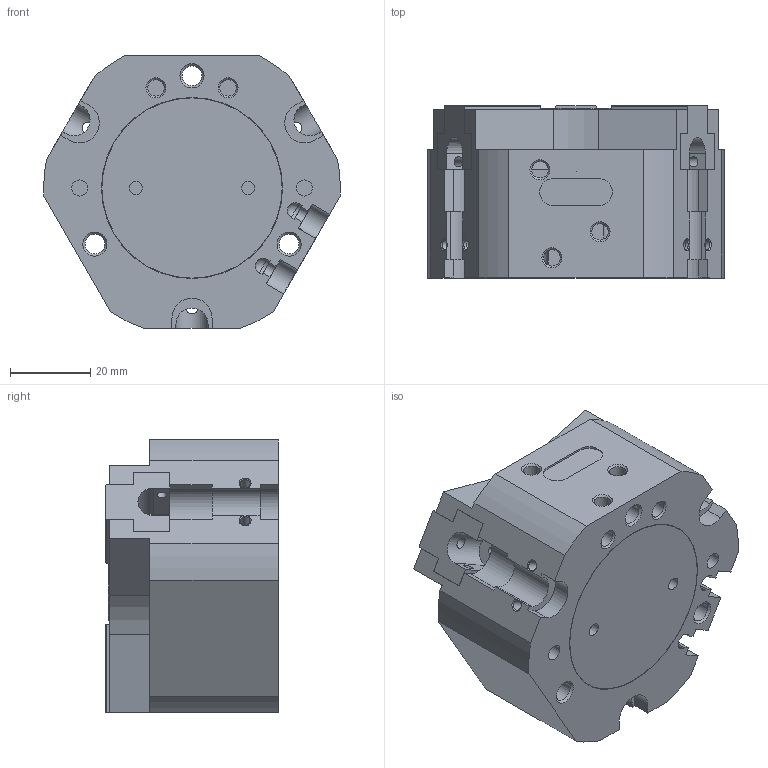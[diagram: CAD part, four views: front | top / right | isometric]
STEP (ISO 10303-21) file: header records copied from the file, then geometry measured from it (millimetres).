
FILE_DESCRIPTION( ( 'STEP AP214' ), '1' );
FILE_NAME( 'C:/Users/ashearer/Desktop/Mindman New CAD/Grippers/MCHJ-66-SD_0_.stp', ' ', ( ' ' ), ( ' ' ), 'PSStep 15.0.47', 'PARTsolutions', ' ' );
FILE_SCHEMA( ( 'AUTOMOTIVE_DESIGN { 1 0 10303 214 1 1 1 1 }' ) );
Length unit declared in the file: millimetre
Products named in the file (4): MCHJ-66-SD(0); _MCHJ-66-SD(dummy_0); _MCHJ-66-SD-body; _MCHJ-66-SD-finger
Assembly tree (5 placements, depth 2):
  MCHJ-66-SD(0)
    _MCHJ-66-SD(dummy_0)
    _MCHJ-66-SD-body
    _MCHJ-66-SD-finger  x3
Bounding box: 73.97 x 43 x 68 mm (x, y, z)
Volume: 134799.9 mm3; surface area: 35937.1 mm2
Topology: 4 solids, 4 shells, 409 faces, 1104 edges, 723 vertices
Faces by surface type: plane 280, cylinder 96, cone 31, sphere 2
Full cylindrical faces by diameter (mm): 2.013 x6, 2.459 x6, 2.5 x6, 2.85 x6, 3.2 x2, 4 x2, 4.134 x5, 4.917 x3, 6 x6, 9.5 x3, 45 x1, 45.2 x1
Entity records: 11038 total; most frequent: CARTESIAN_POINT 1635, DIRECTION 1452, ORIENTED_EDGE 1396, EDGE_CURVE 698, LINE 496, VECTOR 496, VERTEX_POINT 490, AXIS2_PLACEMENT_3D 478
